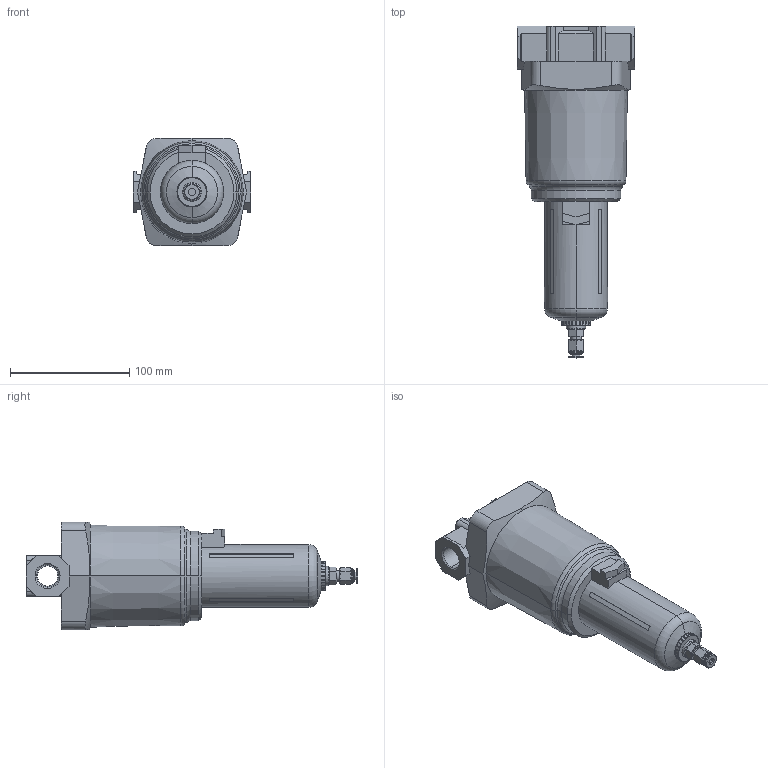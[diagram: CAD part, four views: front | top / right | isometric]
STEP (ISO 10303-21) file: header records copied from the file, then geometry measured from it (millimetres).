
FILE_DESCRIPTION (( 'STEP AP203' ), '1' );
FILE_NAME ('FSO350-04D.STEP', '2021-09-22T11:28:55', ( '' ), ( '' ), 'SwSTEP 2.0', 'SolidWorks 2019', '' );
FILE_SCHEMA (( 'CONFIG_CONTROL_DESIGN' ));
Length unit declared in the file: millimetre
Products named in the file (1): FSO350-04D
Bounding box: 98 x 278 x 90 mm (x, y, z)
Volume: 969300.1 mm3; surface area: 78488.6 mm2
Topology: 1 solids, 1 shells, 369 faces, 858 edges, 518 vertices
Faces by surface type: cylinder 135, plane 122, cone 104, torus 8
Entity records: 13180 total; most frequent: CARTESIAN_POINT 4790, DIRECTION 1752, ORIENTED_EDGE 1716, EDGE_CURVE 858, AXIS2_PLACEMENT_3D 673, VERTEX_POINT 518, LINE 406, VECTOR 406
